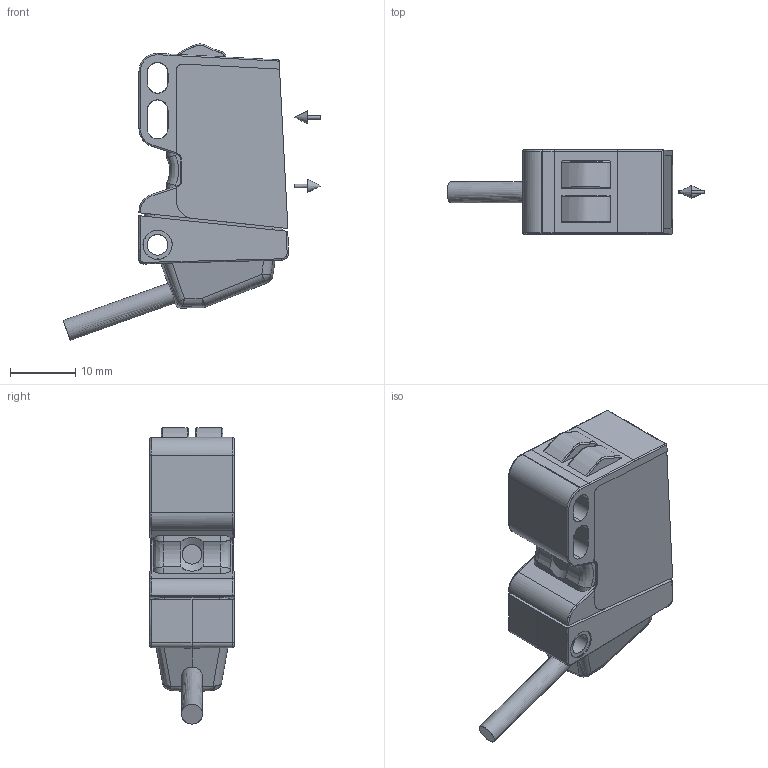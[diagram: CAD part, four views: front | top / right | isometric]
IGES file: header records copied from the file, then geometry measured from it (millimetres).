
Start section: C
Global section: file name: O300_x_Kabel.igs; native system: By Siemens PLM Incorporated; preprocessor: XPlus GENERIC/IGES 19.0.9; author: Author; organization: Title; date: 20180719.141508; units: millimetre
Bounding box: 39.45 x 12.9 x 45.35 mm (x, y, z)
Surface area: 3707.9 mm2 (no closed solid volume)
Topology: 0 solids, 0 shells, 212 faces, 1062 edges, 1056 vertices
Faces by surface type: bspline 212
